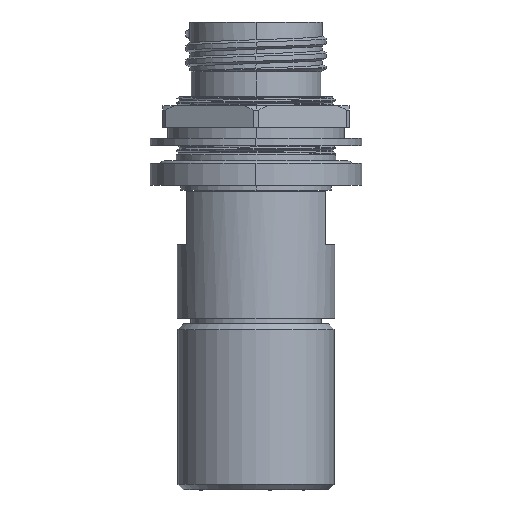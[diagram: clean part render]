
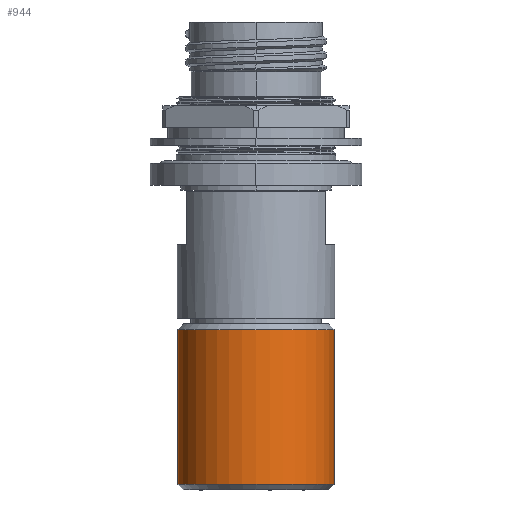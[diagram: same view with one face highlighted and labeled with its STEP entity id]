
A CAD part, left-side view. The second image highlights one B-rep face of the part: STEP entity #944.
In plain terms, the highlighted cylindrical face has radius 13.97 mm (diameter 27.94 mm), a partial arc.
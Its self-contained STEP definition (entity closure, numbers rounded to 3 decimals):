
#905 = DIRECTION ( 'NONE',  ( 0., 1., 0. ) ) ;
#944 = ADVANCED_FACE ( 'NONE', ( #26725 ), #18455, .T. ) ;
#1473 = DIRECTION ( 'NONE',  ( 0., 0., -1. ) ) ;
#1705 = AXIS2_PLACEMENT_3D ( 'NONE', #20579, #3322, #905 ) ;
#1940 = DIRECTION ( 'NONE',  ( 0., 0., 1. ) ) ;
#2265 = CARTESIAN_POINT ( 'NONE',  ( 0., 13.97, -82.677 ) ) ;
#2676 = ORIENTED_EDGE ( 'NONE', *, *, #11445, .T. ) ;
#3322 = DIRECTION ( 'NONE',  ( 0., 0., 1. ) ) ;
#3531 = VECTOR ( 'NONE', #22317, 1000. ) ;
#6918 = CARTESIAN_POINT ( 'NONE',  ( 0., -13.97, -82.677 ) ) ;
#7607 = DIRECTION ( 'NONE',  ( 0., 0., 1. ) ) ;
#7803 = EDGE_CURVE ( 'NONE', #17760, #25721, #17202, .T. ) ;
#9446 = ORIENTED_EDGE ( 'NONE', *, *, #17468, .T. ) ;
#9487 = LINE ( 'NONE', #16055, #3531 ) ;
#10107 = VERTEX_POINT ( 'NONE', #13829 ) ;
#10740 = VERTEX_POINT ( 'NONE', #6918 ) ;
#11406 = CARTESIAN_POINT ( 'NONE',  ( 0., 13.97, -54.991 ) ) ;
#11445 = EDGE_CURVE ( 'NONE', #10107, #25721, #21114, .T. ) ;
#12320 = CARTESIAN_POINT ( 'NONE',  ( 0., 0., -54.991 ) ) ;
#13105 = VECTOR ( 'NONE', #1940, 1000. ) ;
#13829 = CARTESIAN_POINT ( 'NONE',  ( 0., -13.97, -54.991 ) ) ;
#14512 = AXIS2_PLACEMENT_3D ( 'NONE', #27150, #7607, #18172 ) ;
#15427 = CIRCLE ( 'NONE', #1705, 13.97 ) ;
#16055 = CARTESIAN_POINT ( 'NONE',  ( 0., -13.97, -83.693 ) ) ;
#17202 = LINE ( 'NONE', #26314, #13105 ) ;
#17468 = EDGE_CURVE ( 'NONE', #10740, #10107, #9487, .T. ) ;
#17760 = VERTEX_POINT ( 'NONE', #2265 ) ;
#18172 = DIRECTION ( 'NONE',  ( 0., 1., 0. ) ) ;
#18455 = CYLINDRICAL_SURFACE ( 'NONE', #14512, 13.97 ) ;
#18831 = AXIS2_PLACEMENT_3D ( 'NONE', #12320, #1473, #23421 ) ;
#19487 = EDGE_CURVE ( 'NONE', #17760, #10740, #15427, .T. ) ;
#20579 = CARTESIAN_POINT ( 'NONE',  ( 0., 0., -82.677 ) ) ;
#21069 = EDGE_LOOP ( 'NONE', ( #24062, #22133, #9446, #2676 ) ) ;
#21114 = CIRCLE ( 'NONE', #18831, 13.97 ) ;
#22133 = ORIENTED_EDGE ( 'NONE', *, *, #19487, .T. ) ;
#22317 = DIRECTION ( 'NONE',  ( 0., 0., 1. ) ) ;
#23421 = DIRECTION ( 'NONE',  ( 0., -1., 0. ) ) ;
#24062 = ORIENTED_EDGE ( 'NONE', *, *, #7803, .F. ) ;
#25721 = VERTEX_POINT ( 'NONE', #11406 ) ;
#26314 = CARTESIAN_POINT ( 'NONE',  ( 0., 13.97, -83.693 ) ) ;
#26725 = FACE_OUTER_BOUND ( 'NONE', #21069, .T. ) ;
#27150 = CARTESIAN_POINT ( 'NONE',  ( 0., 0., -83.693 ) ) ;
